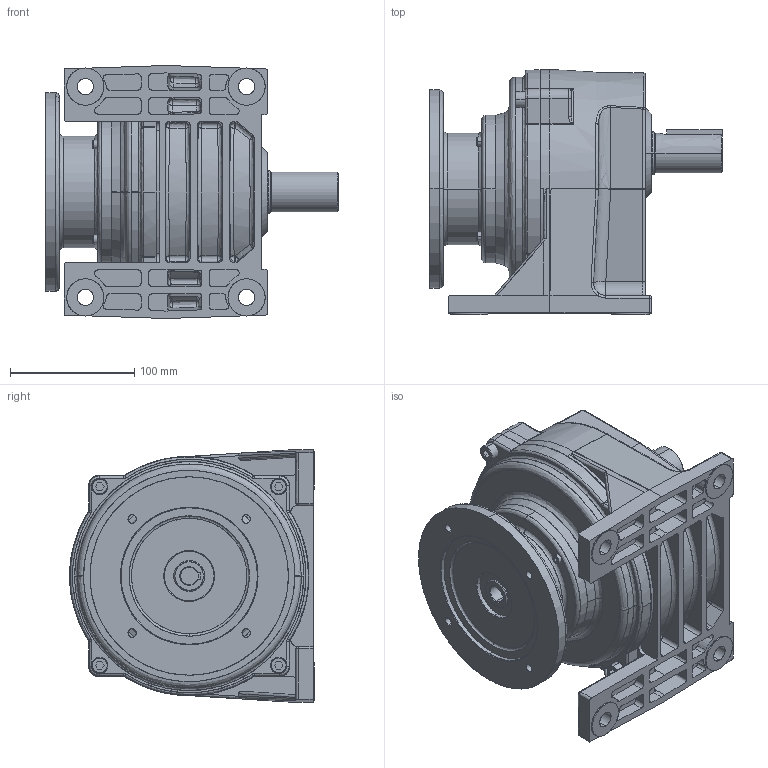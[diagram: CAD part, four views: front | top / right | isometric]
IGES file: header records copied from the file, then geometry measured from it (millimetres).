
Start section: SolidWorks IGES file using analytic representation for surfaces
Bounding box: 236 x 197.5 x 204 mm (x, y, z)
Surface area: 340343.5 mm2 (no closed solid volume)
Topology: 0 solids, 0 shells, 781 faces, 10094 edges, 10083 vertices
Faces by surface type: bspline 451, revolution 330
